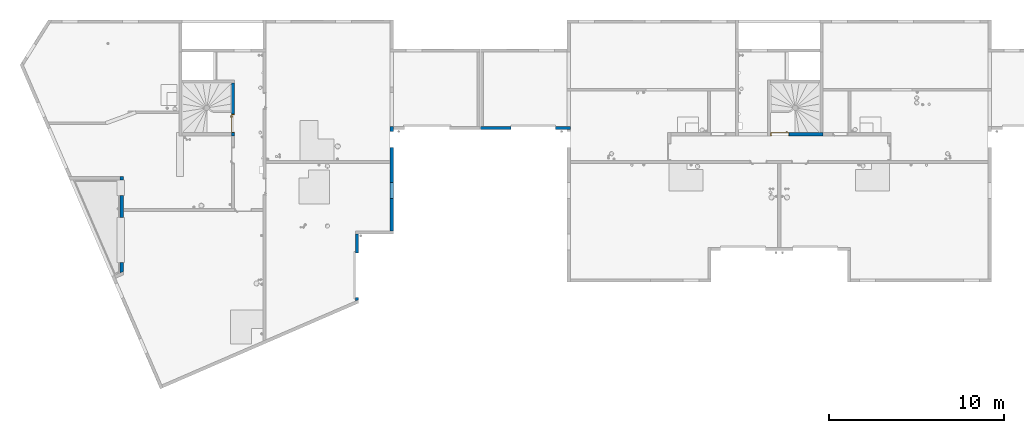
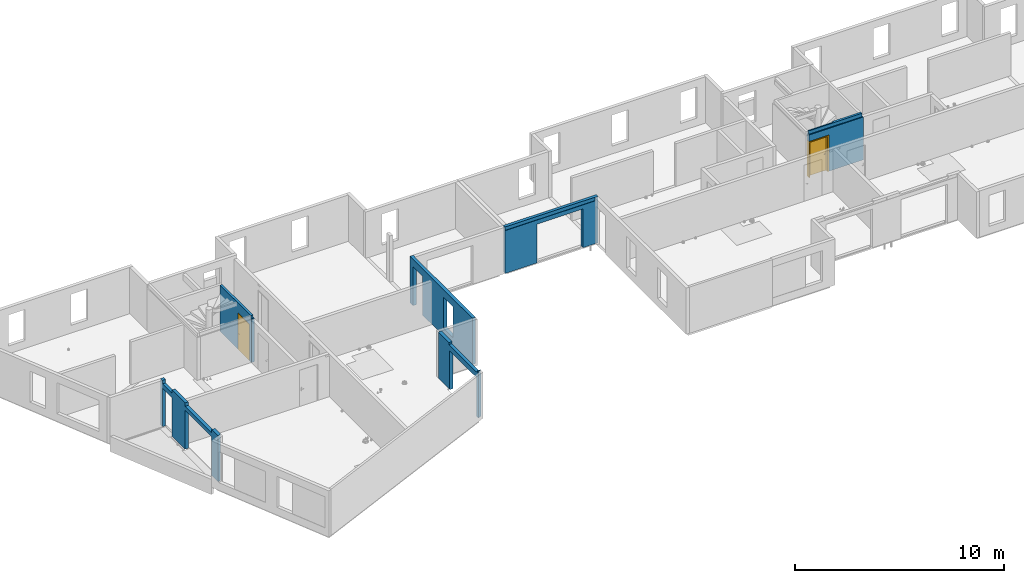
# One storey, part 21 of 30: 6 walls, 2 doors, 2 openings.
"""IFC2X3 building model written with IfcOpenShell, lengths in centimetres."""

from ifc_helpers import new_model, entity, si_unit, converted_unit, derived_unit, direction, frame, frame_2d, origin, place, context, subcontext, project, spatial, rectangle, extrude, faceted_brep, source, transform, mapped, material, material_list, layer, layer_set, type_object, type_shapes, element, fill, save


model = new_model("IFC2X3")

# Units and contexts
model_context = context("Model", 3, precision=0.001, world=origin(), true_north=direction((6.12303176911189e-17, 1.0)))
body_context = subcontext(model_context, "Body", "Model", "MODEL_VIEW")
ifc_project = project(units=[si_unit("LENGTHUNIT", "METRE", prefix="CENTI"), si_unit("AREAUNIT", "SQUARE_METRE"), si_unit("VOLUMEUNIT", "CUBIC_METRE"), converted_unit("PLANEANGLEUNIT", "DEGREE", entity("IfcRatioMeasure", 0.0174532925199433), si_unit("PLANEANGLEUNIT", "RADIAN"), dimensions=[0, 0, 0, 0, 0, 0, 0]), si_unit("MASSUNIT", "GRAM", prefix="KILO"), derived_unit("MASSDENSITYUNIT", [(si_unit("MASSUNIT", "GRAM", prefix="KILO"), 1), (si_unit("LENGTHUNIT", "METRE"), -3)]), si_unit("TIMEUNIT", "SECOND"), si_unit("FREQUENCYUNIT", "HERTZ"), si_unit("THERMODYNAMICTEMPERATUREUNIT", "DEGREE_CELSIUS"), derived_unit("THERMALTRANSMITTANCEUNIT", [(si_unit("MASSUNIT", "GRAM", prefix="KILO"), 1), (si_unit("THERMODYNAMICTEMPERATUREUNIT", "KELVIN"), -1), (si_unit("TIMEUNIT", "SECOND"), -3)]), derived_unit("VOLUMETRICFLOWRATEUNIT", [(si_unit("LENGTHUNIT", "METRE"), 3), (si_unit("TIMEUNIT", "SECOND"), -1)]), si_unit("ELECTRICCURRENTUNIT", "AMPERE"), si_unit("ELECTRICVOLTAGEUNIT", "VOLT"), si_unit("POWERUNIT", "WATT"), si_unit("FORCEUNIT", "NEWTON"), si_unit("ILLUMINANCEUNIT", "LUX"), si_unit("LUMINOUSFLUXUNIT", "LUMEN"), si_unit("LUMINOUSINTENSITYUNIT", "CANDELA"), derived_unit("USERDEFINED", [(si_unit("MASSUNIT", "GRAM", prefix="KILO"), -1), (si_unit("LENGTHUNIT", "METRE"), -2), (si_unit("TIMEUNIT", "SECOND"), 3), (si_unit("LUMINOUSFLUXUNIT", "LUMEN"), 1)]), derived_unit("LINEARVELOCITYUNIT", [(si_unit("LENGTHUNIT", "METRE"), 1), (si_unit("TIMEUNIT", "SECOND"), -1)]), si_unit("PRESSUREUNIT", "PASCAL"), derived_unit("USERDEFINED", [(si_unit("LENGTHUNIT", "METRE"), -2), (si_unit("MASSUNIT", "GRAM", prefix="KILO"), 1), (si_unit("TIMEUNIT", "SECOND"), -2)])], contexts=[model_context])

# Site, building, storey
site_placement = place(None, origin())
site = spatial("IfcSite", under=ifc_project, at=site_placement, Name="Default", CompositionType="ELEMENT")
building_placement = place(site_placement, origin())
building = spatial("IfcBuilding", under=site, at=building_placement, Name="CAGE 03", CompositionType="ELEMENT")
storey_placement = place(building_placement, frame((0.0, 0.0, 610.0)))
storey = spatial("IfcBuildingStorey", under=building, at=storey_placement, Name="R+2", CompositionType="ELEMENT", Elevation=610.0)

# Walls
ifc_material_1 = material(Name="Béton, C25/30")
ifc_layer = layer(ifc_material_1, 18.0)
ifc_layer_set = layer_set([ifc_layer], Name="Mur de base:Voile BA 18")
wall_type_1 = type_object("IfcWallType", Name="Mur de base:Voile BA 18", PredefinedType="STANDARD", material=ifc_layer_set)
wall_1_placement = place(storey_placement, frame((3327.86582014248, 3849.93428297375, 0.0), z_axis=(0.0, 0.0, 1.0), x_axis=(0.0, 1.0, 0.0)))
element("IfcWall", 1, at=wall_1_placement, inside=storey, type_object=wall_type_1, Name="Mur de base:Voile BA 18", ObjectType="Mur de base:Voile BA 18", context=body_context, shape_type="Brep", body=[
    faceted_brep([(7.78832528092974, -9.0, 0.0), (60.7263831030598, -9.0, 0.0), (60.7263831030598, -9.0, 226.0), (315.72638310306, -9.0, 226.0), (315.72638310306, -9.0, 0.0), (350.226383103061, -9.0, 0.0), (368.226383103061, -9.0, 0.0), (440.726383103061, -9.0, 0.0), (440.72638310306, -9.0, 226.0), (531.72638310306, -9.0, 226.0), (531.72638310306, -9.0, 0.0), (549.72638310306, -9.0, 0.0), (549.72638310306, -9.0, 250.0), (549.72638310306, -9.0, 270.0), (531.726383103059, -9.0, 270.0), (531.726383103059, -9.0, 250.0), (440.726383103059, -9.0, 250.0), (440.726383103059, -9.0, 270.0), (315.72638310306, -9.0, 270.0), (315.72638310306, -9.0, 250.0), (60.7263831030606, -9.0, 250.0), (60.7263831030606, -9.0, 270.0), (7.78832528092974, -9.0, 270.0), (7.78832528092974, -9.0, 250.0), (60.7263831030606, 9.0, 0.0), (0.0, 9.0, 0.0), (0.0, 9.0, 250.0), (0.0, 9.0, 269.609958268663), (0.0, 9.0, 270.0), (60.7263831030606, 9.0, 270.0), (60.7263831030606, 9.0, 269.609958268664), (60.7263831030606, 9.0, 265.0), (60.7263831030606, 9.0, 250.0), (315.72638310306, 9.0, 250.0), (315.72638310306, 9.0, 265.0), (315.72638310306, 9.0, 269.609958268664), (315.72638310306, 9.0, 270.0), (440.726383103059, 9.0, 270.0), (440.726383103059, 9.0, 269.609958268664), (440.726383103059, 9.0, 265.0), (440.726383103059, 9.0, 250.0), (531.726383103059, 9.0, 250.0), (531.726383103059, 9.0, 270.0), (549.72638310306, 9.0, 270.0), (549.72638310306, 9.0, 250.0), (549.72638310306, 9.0, 0.0), (531.726383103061, 9.0, 0.0), (531.72638310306, 9.0, 226.0), (440.726383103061, 9.0, 226.0), (440.72638310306, 9.0, 0.0), (315.726383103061, 9.0, 0.0), (315.72638310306, 9.0, 226.0), (60.7263831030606, 9.0, 226.0)], [[[0, 1, 2, 3, 4, 5, 6, 7, 8, 9, 10, 11, 12, 13, 14, 15, 16, 17, 18, 19, 20, 21, 22, 23]], [[24, 25, 26, 27, 28, 29, 30, 31, 32, 33, 34, 35, 36, 37, 38, 39, 40, 41, 42, 43, 44, 45, 46, 47, 48, 49, 50, 51, 52]], [[0, 25, 24, 1]], [[13, 43, 42, 14]], [[22, 28, 27, 26, 25, 0, 23]], [[11, 45, 44, 43, 13, 12]], [[52, 2, 1, 24]], [[2, 52, 51, 3]], [[3, 51, 50, 4]], [[48, 8, 7, 49]], [[8, 48, 47, 9]], [[9, 47, 46, 10]], [[18, 36, 35, 34, 33, 19]], [[20, 32, 31, 30, 29, 21]], [[41, 15, 14, 42]], [[37, 17, 16, 40, 39, 38]], [[40, 16, 15, 41]], [[32, 20, 19, 33]], [[36, 18, 17, 37]], [[28, 22, 21, 29]], [[4, 50, 49, 7, 6, 5]], [[45, 11, 10, 46]]]),
])
wall_2_placement = place(storey_placement, frame((4671.36582014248, 3689.23240252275, 0.0), z_axis=(0.0, 0.0, 1.0), x_axis=(0.0, 1.0, 0.0)))
element("IfcWall", 2, at=wall_2_placement, inside=storey, type_object=wall_type_1, Name="Mur de base:Voile BA 18", ObjectType="Mur de base:Voile BA 18", context=body_context, shape_type="Brep", body=[
    faceted_brep([(10.9282635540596, -9.0, 269.589956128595), (10.9282635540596, -9.0, 270.0), (7.80682640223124, -9.0, 270.0), (7.84591548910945, -9.0, 269.589956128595), (18.9282635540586, 9.0, 0.0), (10.9282635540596, 9.0, 0.0), (0.0, 9.0, 0.0), (0.0, 9.0, 250.0), (0.0, 9.0, 270.0), (10.9282635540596, 9.0, 270.0), (10.9282635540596, 9.0, 258.0), (281.928263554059, 9.0, 258.0), (281.928263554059, 9.0, 270.0), (382.928263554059, 9.0, 270.0), (382.928263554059, 9.0, 250.0), (382.928263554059, 9.0, 0.0), (281.928263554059, 9.0, 0.0), (273.92826355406, 9.0, 0.0), (273.92826355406, 9.0, 226.0), (18.9282635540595, 9.0, 226.0), (7.78832528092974, -9.0, 0.0), (18.9282635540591, -9.0, 0.0), (10.9282635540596, -9.0, 0.0), (7.80682640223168, -9.0, 0.0), (382.928263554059, -9.0, 270.0), (281.928263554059, -7.0, 270.0), (281.928263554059, -9.0, 270.0), (7.78832528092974, -9.0, 250.0), (6.92295580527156, -7.0, 250.0), (6.92295580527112, -7.0, 270.0), (382.928263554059, -9.0, 0.0), (18.9282635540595, -9.0, 226.0), (273.92826355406, -9.0, 226.0), (273.92826355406, -9.0, 0.0), (10.9282635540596, -7.0, 270.0), (10.9282635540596, -7.0, 269.609958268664), (10.9282635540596, -7.0, 258.0), (281.928263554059, -7.0, 258.0), (281.928263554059, -7.0, 269.609958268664), (281.928263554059, -9.0, 269.589956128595), (377.928263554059, -9.0, 250.0), (377.928263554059, -7.0, 250.0), (381.928263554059, -7.0, 269.609958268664), (381.928263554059, -7.0, 250.0), (381.928263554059, -9.0, 250.0), (381.928263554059, -9.0, 269.589956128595), (6.94134911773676, -7.0, 270.0), (6.97853141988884, -7.0, 269.609958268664), (378.928263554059, -7.0, 250.0), (377.928263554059, -7.0, 251.466307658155), (378.928263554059, -7.0, 251.0), (378.928263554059, -9.0, 251.0), (378.928263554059, -9.0, 250.0), (377.928263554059, -9.0, 251.466307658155), (281.928263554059, -9.0, 0.0)], [[[0, 1, 2, 3]], [[4, 5, 6, 7, 8, 9, 10, 11, 12, 13, 14, 15, 16, 17, 18, 19]], [[20, 6, 5, 4, 21, 22, 23]], [[24, 13, 12, 25, 26]], [[6, 20, 27, 28, 29, 8, 7]], [[24, 30, 15, 14, 13]], [[19, 31, 21, 4]], [[31, 19, 18, 32]], [[32, 18, 17, 33]], [[10, 9, 34, 1, 0, 35, 36]], [[12, 11, 37, 38, 39, 26, 25]], [[11, 10, 36, 37]], [[40, 41, 28, 27]], [[42, 43, 44, 45]], [[46, 47, 3, 2]], [[48, 43, 42, 38, 37, 36, 35, 47, 46, 29, 28, 41, 49, 50]], [[47, 35, 0, 3]], [[48, 50, 51, 52]], [[49, 41, 40, 53]], [[50, 49, 53, 51]], [[38, 42, 45, 39]], [[43, 48, 52, 44]], [[9, 8, 29, 46, 2, 1, 34]], [[15, 30, 54, 33, 17, 16]], [[30, 24, 26, 39, 45, 44, 52, 51, 53, 40, 27, 20, 23, 22, 21, 31, 32, 33, 54]]]),
])
wall_3_placement = place(storey_placement, frame((4869.36582014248, 4090.16066607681, 0.0), z_axis=(0.0, 0.0, 1.0), x_axis=(0.0, 1.0, 0.0)))
element("IfcWall", 3, at=wall_3_placement, inside=storey, type_object=wall_type_1, Name="Mur de base:Voile BA 18", ObjectType="Mur de base:Voile BA 18", context=body_context, shape_type="Brep", body=[
    faceted_brep([(0.0, -9.0, 270.0), (0.0, -9.0, 0.0), (475.499999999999, -9.0, 0.0), (475.499999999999, -9.0, 226.0), (566.5, -9.0, 226.0), (566.499999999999, -9.0, 0.0), (578.499999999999, -9.0, 0.0), (596.5, -9.0, 0.0), (596.5, -9.0, 220.0), (596.5, -9.0, 270.0), (580.500000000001, -9.0, 270.0), (580.500000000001, -9.0, 250.0), (388.500000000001, -9.0, 250.0), (388.500000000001, -9.0, 251.466307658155), (387.500000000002, -9.0, 251.0), (387.5, -9.0, 250.0), (384.5, -9.0, 250.0), (384.5, -9.0, 270.0), (184.5, -9.0, 45.0), (184.5, -9.0, 226.0), (275.500000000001, -9.0, 226.0), (275.5, -9.0, 45.0), (184.5, 9.0, 226.0), (184.5, 9.0, 45.0), (275.500000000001, 9.0, 45.0), (275.5, 9.0, 226.0), (0.0, 9.0, 270.0), (596.5, 9.0, 270.0), (596.5, 9.0, 220.0), (596.5, 9.0, 0.0), (566.5, 9.0, 0.0), (566.499999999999, 9.0, 226.0), (475.5, 9.0, 226.0), (475.499999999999, 9.0, 0.0), (402.499999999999, 9.0, 0.0), (384.499999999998, 9.0, 0.0), (0.0, 9.0, 0.0), (0.0, 9.0, 250.0), (384.5, -7.0, 270.0), (402.5, -7.0, 270.0), (580.500000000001, -7.0, 270.0), (580.500000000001, -7.0, 250.0), (387.500000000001, -7.0, 251.0), (387.500000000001, -7.0, 250.0), (388.500000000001, -7.0, 250.0), (388.500000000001, -7.0, 251.466307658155), (384.5, -7.0, 250.0)], [[[0, 1, 2, 3, 4, 5, 6, 7, 8, 9, 10, 11, 12, 13, 14, 15, 16, 17], [18, 19, 20, 21]], [[22, 23, 24, 25], [26, 27, 28, 29, 30, 31, 32, 33, 34, 35, 36, 37]], [[1, 36, 35, 34, 33, 2]], [[27, 26, 0, 17, 38, 39, 40, 10, 9]], [[1, 0, 26, 37, 36]], [[9, 8, 7, 29, 28, 27]], [[18, 23, 22, 19]], [[19, 22, 25, 20]], [[24, 21, 20, 25]], [[23, 18, 21, 24]], [[32, 3, 2, 33]], [[3, 32, 31, 4]], [[4, 31, 30, 5]], [[40, 41, 11, 10]], [[42, 43, 15, 14]], [[44, 45, 13, 12]], [[45, 42, 14, 13]], [[16, 46, 38, 17]], [[41, 40, 39, 38, 46, 43, 42, 45, 44]], [[41, 44, 12, 11]], [[43, 46, 16, 15]], [[29, 7, 6, 5, 30]]], outer=[[True, False], [False, True], [True], [True], [True], [True], [True], [True], [True], [True], [True], [True], [True], [True], [True], [True], [True], [True], [True], [True], [True], [True]]),
])
wall_4_placement = place(storey_placement, frame((5375.36582014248, 4677.66066607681, 0.0)))
element("IfcWall", 4, at=wall_4_placement, inside=storey, type_object=wall_type_1, Name="Mur de base:Voile BA 18", ObjectType="Mur de base:Voile BA 18", context=body_context, shape_type="Brep", body=[
    faceted_brep([(513.0, -9.0, 0.0), (513.0, -9.0, 270.0), (497.0, -9.0, 270.0), (497.0, -9.0, 250.0), (4.0, -9.0, 250.0), (4.0, -9.0, 251.466307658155), (3.0, -9.0, 251.0), (3.0, -9.0, 250.0), (0.0, -9.0, 250.0), (0.0, -9.0, 0.0), (175.0, -9.0, 0.0), (175.0, -9.0, 226.0), (430.0, -9.0, 226.0), (430.0, -9.0, 0.0), (495.0, -9.0, 0.0), (0.0, 9.0, 270.0), (18.0, 9.0, 270.0), (495.0, 9.0, 270.0), (513.0, 9.0, 270.0), (513.0, 9.0, 0.0), (438.0, 9.0, 0.0), (430.0, 9.0, 0.0), (430.0, 9.0, 226.0), (175.0, 9.0, 226.0), (175.0, 9.0, 0.0), (167.0, 9.0, 0.0), (18.0, 9.0, 0.0), (0.0, 9.0, 0.0), (175.0, -7.0, 0.0), (0.0, -7.0, 270.0), (18.0, -7.0, 270.0), (497.0, -7.0, 270.0), (430.0, -7.0, 0.0), (0.0, -7.0, 250.0), (497.0, -7.0, 250.0), (3.0, -7.0, 250.0), (3.0, -7.0, 251.0), (4.0, -7.0, 251.466307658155), (4.0, -7.0, 250.0)], [[[0, 1, 2, 3, 4, 5, 6, 7, 8, 9, 10, 11, 12, 13, 14]], [[15, 16, 17, 18, 19, 20, 21, 22, 23, 24, 25, 26, 27]], [[10, 9, 27, 26, 25, 24, 28]], [[18, 17, 16, 15, 29, 30, 31, 2, 1]], [[1, 0, 19, 18]], [[12, 22, 21, 32, 13]], [[22, 12, 11, 23]], [[23, 11, 10, 28, 24]], [[15, 27, 9, 8, 33, 29]], [[34, 31, 30, 29, 33, 35, 36, 37, 38]], [[31, 34, 3, 2]], [[34, 38, 4, 3]], [[36, 35, 7, 6]], [[38, 37, 5, 4]], [[37, 36, 6, 5]], [[35, 33, 8, 7]], [[19, 0, 14, 13, 32, 21, 20]]]),
])

# Wall, opening, door
wall_type_2 = type_object("IfcWallType", Name="Mur de base:premur 18", PredefinedType="NOTDEFINED")
wall_5_placement = place(storey_placement, frame((3963.36582014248, 4932.66066607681, 0.0), z_axis=(0.0, 0.0, 1.0), x_axis=(0.0, -1.0, 0.0)))
wall_5 = element("IfcWall", 5, at=wall_5_placement, inside=storey, type_object=wall_type_2, Name="Mur de base:premur 18", ObjectType="Mur de base:premur 18", context=body_context, shape_type="Brep", body=[
    faceted_brep([(0.0, -9.0, 270.0), (0.0, -9.0, 0.0), (175.0, -9.0, 0.0), (175.0, -9.0, 210.0), (282.0, -9.0, 210.0), (282.0, -9.0, 0.0), (294.5, -9.0, 0.0), (300.0, -9.0, 0.0), (300.0, -9.0, 237.5), (300.0, -9.0, 247.5), (300.0, -9.0, 250.0), (294.5, -9.0, 250.0), (294.5, -9.0, 270.0), (287.5, -9.0, 270.0), (282.0, -9.0, 270.0), (175.0, -9.0, 270.0), (300.0, 9.0, 0.0), (282.0, 9.0, 0.0), (282.0, 9.0, 210.0), (175.0, 9.0, 210.0), (175.0, 9.0, 0.0), (0.0, 9.0, 0.0), (0.0, 9.0, 250.0), (300.0, 9.0, 250.0), (300.0, 9.0, 247.5), (300.0, 9.0, 237.5), (0.0, 3.50000000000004, 0.0), (294.5, 3.5000000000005, 270.0), (0.0, 3.50000000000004, 270.0), (0.0, 3.50000000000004, 250.0), (294.5, 3.5000000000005, 250.0)], [[[0, 1, 2, 3, 4, 5, 6, 7, 8, 9, 10, 11, 12, 13, 14, 15]], [[16, 17, 18, 19, 20, 21, 22, 23, 24, 25]], [[1, 26, 21, 20, 2]], [[0, 15, 14, 13, 12, 27, 28]], [[1, 0, 28, 29, 22, 21, 26]], [[7, 16, 25, 24, 23, 10, 9, 8]], [[5, 4, 18, 17]], [[4, 3, 19, 18]], [[3, 2, 20, 19]], [[29, 30, 11, 10, 23, 22]], [[30, 27, 12, 11]], [[27, 30, 29, 28]], [[16, 7, 6, 5, 17]]]),
])
opening_1_placement = place(wall_5_placement, frame((282.0, 9.0, 0.0)))
opening_1 = element("IfcOpeningElement", 6, at=opening_1_placement, cuts=wall_5, Name="Int. Simple:HB103:1", ObjectType="Opening", context=body_context, shape_type="SweptSolid", body=[
    extrude(rectangle(XDim=210.000000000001, YDim=107.0, at=frame_2d((105.000000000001, 53.5000000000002), x_axis=(1.0, 0.0))), frame((0.0, 0.0, 0.0), z_axis=(0.0, -1.0, 0.0), x_axis=(0.0, 0.0, 1.0)), (0.0, 0.0, 1.0), 18.0),
])
ifc_material_2 = material(Name="Finition Peinture - Blanc satiné")
ifc_material_3 = material(Name="Bois - Panneau de porte")
ifc_material_4 = material(Name="Bois - Cadre de porte")
ifc_material_list_1 = material_list([ifc_material_2, ifc_material_3, ifc_material_4])
ifc_material_list_2 = material_list([ifc_material_2, ifc_material_3, ifc_material_4])
door_style = type_object("IfcDoorStyle", Name="HB103", ConstructionType="NOTDEFINED", OperationType="SINGLE_SWING_LEFT", ParameterTakesPrecedence=False, Sizeable=False, material=ifc_material_list_2)
shared_shape = source(origin(), body_context, "Body", "Brep", [
    faceted_brep([(10.5352761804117, -0.500000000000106, 86.6003983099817), (11.5000000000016, -0.500000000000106, 87.0), (11.5000000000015, -0.500000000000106, 108.0), (10.5352761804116, -0.500000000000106, 108.399601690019), (9.50000000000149, -0.500000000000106, 108.535898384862), (8.46472381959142, -0.500000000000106, 108.399601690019), (7.50000000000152, -0.500000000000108, 108.0), (7.50000000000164, -0.500000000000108, 87.0), (8.46472381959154, -0.500000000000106, 86.6003983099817), (9.5000000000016, -0.500000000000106, 86.464101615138), (10.5352761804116, 0.0, 108.399601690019), (11.5000000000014, 0.0, 108.0), (11.5000000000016, 0.0, 87.0), (10.5352761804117, 0.0, 86.6003983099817), (9.5000000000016, 0.0, 86.464101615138), (8.46472381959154, 0.0, 86.6003983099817), (7.50000000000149, 0.0, 87.0), (7.50000000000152, 0.0, 108.0), (8.46472381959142, 0.0, 108.399601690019), (9.50000000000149, 0.0, 108.535898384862)], [[[0, 1, 2, 3, 4, 5, 6, 7, 8, 9]], [[10, 11, 12, 13, 14, 15, 16, 17, 18, 19]], [[16, 15, 8, 7]], [[8, 15, 14, 9]], [[14, 13, 0, 9]], [[13, 12, 1, 0]], [[2, 1, 12, 11]], [[11, 10, 3, 2]], [[3, 10, 19, 4]], [[19, 18, 5, 4]], [[18, 17, 6, 5]], [[7, 6, 17, 16]]]),
    faceted_brep([(10.5352761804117, 3.0, 86.6003983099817), (11.5000000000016, 3.0, 87.0), (11.5000000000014, 3.0, 108.0), (10.5352761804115, 3.0, 108.399601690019), (9.50000000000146, 3.0, 108.535898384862), (8.4647238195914, 3.0, 108.399601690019), (7.50000000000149, 3.0, 108.0), (7.50000000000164, 3.0, 87.0), (8.46472381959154, 3.0, 86.6003983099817), (9.50000000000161, 3.0, 86.464101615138), (10.5352761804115, 3.49999999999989, 108.399601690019), (11.5000000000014, 3.49999999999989, 108.0), (11.5000000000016, 3.49999999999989, 87.0), (10.5352761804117, 3.49999999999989, 86.6003983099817), (9.50000000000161, 3.49999999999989, 86.464101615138), (8.46472381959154, 3.49999999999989, 86.6003983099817), (7.50000000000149, 3.49999999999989, 87.0), (7.50000000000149, 3.49999999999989, 108.0), (8.4647238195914, 3.49999999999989, 108.399601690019), (9.50000000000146, 3.49999999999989, 108.535898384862)], [[[0, 1, 2, 3, 4, 5, 6, 7, 8, 9]], [[10, 11, 12, 13, 14, 15, 16, 17, 18, 19]], [[11, 10, 3, 2]], [[3, 10, 19, 4]], [[19, 18, 5, 4]], [[18, 17, 6, 5]], [[7, 6, 17, 16]], [[16, 15, 8, 7]], [[8, 15, 14, 9]], [[14, 13, 0, 9]], [[13, 12, 1, 0]], [[2, 1, 12, 11]]]),
    faceted_brep([(9.29747013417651, -0.500000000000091, 100.778044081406), (9.70252986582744, -0.500000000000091, 100.778044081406), (10.1000000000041, -0.500000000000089, 100.699999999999), (10.1000000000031, -0.500000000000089, 99.3000000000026), (9.7025298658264, -0.500000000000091, 99.2219559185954), (9.29747013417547, -0.500000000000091, 99.2219559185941), (8.89999999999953, -0.500000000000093, 99.2999999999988), (8.89999999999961, -0.500000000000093, 100.7), (8.8999999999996, -3.26509507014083, 100.7), (9.29747013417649, -3.1004575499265, 100.778044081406), (10.9023585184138, -4.70534593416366, 100.778044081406), (11.0701397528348, -4.30028620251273, 100.778044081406), (9.70252986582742, -2.93267631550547, 100.778044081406), (10.1000000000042, -2.76803879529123, 100.7), (10.1000000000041, -2.76803879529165, 99.3000000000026), (9.7025298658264, -2.93267631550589, 99.2219559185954), (11.0701397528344, -4.30028620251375, 99.2219559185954), (10.9023585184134, -4.70534593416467, 99.2219559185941), (9.29747013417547, -3.10045754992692, 99.2219559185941), (8.89999999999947, -3.26509507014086, 99.2999999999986), (10.7377209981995, -5.10281606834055, 100.7), (11.2347772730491, -3.90281606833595, 100.7), (11.2347772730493, -3.90281606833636, 99.3000000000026), (10.7377209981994, -5.10281606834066, 99.2999999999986), (19.5018640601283, -5.10281606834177, 99.2999999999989), (19.5018640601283, -4.70534593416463, 99.2219559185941), (19.5018640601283, -4.30028620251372, 99.2219559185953), (19.5018640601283, -3.90281606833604, 99.3000000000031), (19.5018640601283, -3.90281606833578, 100.7), (19.5018640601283, -4.30028620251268, 100.778044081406), (19.5018640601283, -4.7053459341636, 100.778044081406), (19.5018640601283, -5.10281606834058, 100.699999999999), (14.7307697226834, -5.10281606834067, 100.7), (15.2860019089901, -4.50281606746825, 100.78786867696), (15.3683206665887, -3.90281606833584, 100.7), (15.3683206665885, -3.90281606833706, 99.3000000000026), (15.2860018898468, -4.50281607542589, 99.2121313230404), (14.7307703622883, -5.10281606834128, 99.2999999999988)], [[[0, 1, 2, 3, 4, 5, 6, 7]], [[8, 9, 0, 7]], [[9, 10, 11, 12, 1, 0]], [[12, 13, 2, 1]], [[3, 2, 13, 14]], [[14, 15, 4, 3]], [[15, 16, 17, 18, 5, 4]], [[18, 19, 6, 5]], [[7, 6, 19, 8]], [[20, 10, 9, 8]], [[11, 21, 13, 12]], [[14, 13, 21, 22]], [[22, 16, 15, 14]], [[17, 23, 19, 18]], [[8, 19, 23, 20]], [[24, 25, 26, 27, 28, 29, 30, 31]], [[32, 30, 33]], [[31, 30, 32]], [[10, 20, 32]], [[33, 34, 11]], [[21, 11, 34]], [[34, 29, 28]], [[30, 29, 33]], [[29, 34, 33]], [[10, 32, 33]], [[10, 33, 11]], [[22, 21, 34, 28, 27, 35]], [[35, 26, 36]], [[37, 36, 25]], [[22, 35, 16]], [[35, 27, 26]], [[24, 37, 25]], [[23, 17, 37]], [[37, 17, 36]], [[17, 16, 36]], [[16, 35, 36]], [[25, 36, 26]], [[20, 23, 37, 24, 31, 32]]]),
    faceted_brep([(9.29747013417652, 3.49999999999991, 100.778044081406), (8.89999999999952, 3.4999999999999, 100.7), (8.89999999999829, 3.4999999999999, 99.299999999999), (9.29747013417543, 3.49999999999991, 99.2219559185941), (9.70252986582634, 3.49999999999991, 99.2219559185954), (10.1000000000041, 3.49999999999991, 99.3000000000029), (10.1000000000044, 3.49999999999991, 100.7), (9.70252986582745, 3.49999999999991, 100.778044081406), (10.1000000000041, 5.74852045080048, 99.3000000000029), (10.1000000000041, 5.74852045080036, 100.7), (9.70252986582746, 5.91315797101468, 100.778044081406), (11.0838906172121, 7.29451872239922, 100.778044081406), (10.9161093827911, 7.69957845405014, 100.778044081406), (9.29747013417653, 6.08093920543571, 100.778044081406), (8.89999999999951, 6.2455767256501, 100.7), (8.8999999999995, 6.24557672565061, 99.299999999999), (9.29747013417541, 6.08093920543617, 99.2219559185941), (10.9161093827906, 7.69957845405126, 99.2219559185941), (11.0838906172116, 7.29451872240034, 99.2219559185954), (9.70252986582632, 5.91315797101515, 99.2219559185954), (11.2485281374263, 6.89704858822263, 99.3000000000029), (11.2485281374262, 6.89704858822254, 100.7), (10.7514718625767, 8.09704858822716, 100.7), (10.7514718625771, 8.09704858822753, 99.299999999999), (19.5045783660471, 6.8970485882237, 99.3000000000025), (19.5045783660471, 7.29451872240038, 99.2219559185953), (19.5045783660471, 7.6995784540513, 99.2219559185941), (19.5045783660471, 8.09704858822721, 99.2999999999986), (19.5045783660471, 8.0970485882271, 100.7), (19.5045783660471, 7.6995784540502, 100.778044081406), (19.5045783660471, 7.29451872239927, 100.778044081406), (19.5045783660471, 6.89704858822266, 100.7), (15.3765532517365, 6.89704858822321, 99.3000000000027), (15.3765532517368, 6.89704858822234, 100.7), (15.2942344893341, 7.4970485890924, 100.78786867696), (14.7445205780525, 8.09704858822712, 100.7), (14.7445205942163, 8.09704858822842, 99.299999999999), (15.2942345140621, 7.49704858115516, 99.2121313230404)], [[[0, 1, 2, 3, 4, 5, 6, 7]], [[6, 5, 8, 9]], [[9, 10, 7, 6]], [[10, 11, 12, 13, 0, 7]], [[13, 14, 1, 0]], [[2, 1, 14, 15]], [[15, 16, 3, 2]], [[16, 17, 18, 19, 4, 3]], [[19, 8, 5, 4]], [[9, 8, 20, 21]], [[21, 11, 10, 9]], [[12, 22, 14, 13]], [[15, 14, 22, 23]], [[23, 17, 16, 15]], [[18, 20, 8, 19]], [[24, 25, 26, 27, 28, 29, 30, 31]], [[21, 20, 32, 24, 31, 33]], [[33, 30, 34]], [[35, 34, 29]], [[21, 33, 11]], [[33, 31, 30]], [[28, 35, 29]], [[22, 12, 35]], [[35, 12, 34]], [[12, 11, 34]], [[11, 33, 34]], [[29, 34, 30]], [[22, 35, 28, 27, 36, 23]], [[36, 26, 37]], [[27, 26, 36]], [[17, 23, 36]], [[37, 32, 18]], [[20, 18, 32]], [[32, 25, 24]], [[26, 25, 37]], [[25, 32, 37]], [[17, 36, 37]], [[17, 37, 18]]]),
    faceted_brep([(3.5000000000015, 3.0, 206.5), (103.500000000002, 3.0, 206.5), (103.500000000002, 3.0, 0.0), (3.5000000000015, 3.0, 0.0), (3.5000000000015, 0.0, 206.5), (3.5000000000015, 0.0, 0.0), (103.500000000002, 0.0, 0.0), (103.500000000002, 0.0, 206.5)], [[[0, 1, 2, 3]], [[4, 5, 6, 7]], [[1, 0, 4, 7]], [[2, 1, 7, 6]], [[3, 2, 6, 5]], [[0, 3, 5, 4]]]),
    faceted_brep([(0.0, 0.0, 0.0), (0.0, 18.0, 0.0), (5.0, 18.0, 0.0), (5.0, 3.0, 0.0), (3.50000000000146, 3.0, 0.0), (3.50000000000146, 0.0, 0.0), (0.0, 0.0, 210.0), (0.0, 18.0, 210.0), (107.0, 18.0, 210.0), (107.0, 18.0, 0.0), (102.0, 18.0, 0.0), (102.0, 18.0, 205.0), (5.0, 18.0, 205.0), (5.0, 3.0, 205.0), (102.0, 3.0, 205.0), (102.0, 3.0, 0.0), (103.499999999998, 3.0, 0.0), (103.499999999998, 3.0, 206.5), (3.50000000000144, 3.0, 206.5), (3.50000000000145, 0.0, 206.5), (103.499999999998, 0.0, 206.5), (103.499999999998, 0.0, 0.0), (107.0, 0.0, 0.0), (107.0, 0.0, 210.0)], [[[0, 1, 2, 3, 4, 5]], [[1, 0, 6, 7]], [[2, 1, 7, 8, 9, 10, 11, 12]], [[3, 2, 12, 13]], [[4, 3, 13, 14, 15, 16, 17, 18]], [[5, 4, 18, 19]], [[0, 5, 19, 20, 21, 22, 23, 6]], [[8, 23, 22, 9]], [[22, 21, 16, 15, 10, 9]], [[14, 11, 10, 15]], [[20, 17, 16, 21]], [[7, 6, 23, 8]], [[13, 12, 11, 14]], [[19, 18, 17, 20]]]),
    faceted_brep([(1.49999999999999, 18.0, 0.0), (-1.5, 18.0, 0.0), (-1.5, 18.5000000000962, 0.0), (1.49999999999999, 18.5000000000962, 0.0), (1.49999999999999, 18.0, 208.500000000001), (105.5, 18.0, 208.500000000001), (105.5, 18.0, 0.0), (108.5, 18.0, 0.0), (108.5, 18.0, 211.500000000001), (-1.50000000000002, 18.0, 211.500000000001), (-1.5, 18.5000000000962, 211.500000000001), (108.5, 18.5000000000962, 211.500000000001), (108.5, 18.5000000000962, 0.0), (105.5, 18.5000000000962, 0.0), (105.5, 18.5000000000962, 208.500000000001), (1.49999999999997, 18.5000000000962, 208.500000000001)], [[[0, 1, 2, 3]], [[1, 0, 4, 5, 6, 7, 8, 9]], [[2, 1, 9, 10]], [[3, 2, 10, 11, 12, 13, 14, 15]], [[0, 3, 15, 4]], [[6, 13, 12, 7]], [[5, 14, 13, 6]], [[11, 8, 7, 12]], [[10, 9, 8, 11]], [[4, 15, 14, 5]]]),
    faceted_brep([(-1.5, -0.5, 0.0), (1.49999999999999, -0.5, 0.0), (1.49999999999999, -0.5, 208.500000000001), (105.5, -0.5, 208.500000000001), (105.5, -0.5, 0.0), (108.5, -0.5, 0.0), (108.5, -0.5, 211.500000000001), (-1.50000000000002, -0.5, 211.500000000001), (-1.5, 0.0, 0.0), (-1.5, 0.0, 211.500000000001), (1.49999999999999, 0.0, 0.0), (108.5, 0.0, 211.500000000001), (108.5, 0.0, 0.0), (105.5, 0.0, 0.0), (105.5, 0.0, 208.500000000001), (1.49999999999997, 0.0, 208.500000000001)], [[[0, 1, 2, 3, 4, 5, 6, 7]], [[8, 0, 7, 9]], [[10, 8, 9, 11, 12, 13, 14, 15]], [[1, 10, 15, 2]], [[3, 14, 13, 4]], [[11, 6, 5, 12]], [[9, 7, 6, 11]], [[2, 15, 14, 3]], [[4, 13, 12, 5]], [[1, 0, 8, 10]]]),
])
type_shapes(door_style, [shared_shape])
door_1_placement = place(opening_1_placement, frame((-107.0, -18.0, 0.0)))
door_1 = element("IfcDoor", 7, at=door_1_placement, inside=storey, type_object=door_style, material=ifc_material_list_1, Name="Int. Simple:HB103", ObjectType="HB103", OverallHeight=210.000000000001, OverallWidth=107.0, context=body_context, shape_type="MappedRepresentation", body=[
    mapped(shared_shape, transform((0.0, 0.0, 0.0), scale=1.0)),
])
fill(opening_1, door_1)

wall_6_placement = place(storey_placement, frame((7031.36582014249, 4641.6606660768, 0.0)))
wall_6 = element("IfcWall", 8, at=wall_6_placement, inside=storey, type_object=wall_type_2, Name="Mur de base:premur 18", ObjectType="Mur de base:premur 18", context=body_context, shape_type="Brep", body=[
    faceted_brep([(107.0, -9.0, 0.0), (300.0, -9.0, 0.0), (300.0, -9.0, 250.0), (0.0, -9.0, 250.0), (0.0, -9.0, 210.0), (107.0, -9.0, 210.0), (300.0, 9.0, 0.0), (294.499999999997, 9.0, 0.0), (282.0, 9.0, 0.0), (141.0, 9.0, 0.0), (107.0, 9.0, 0.0), (107.0, 9.0, 210.0), (0.0, 9.0, 210.0), (0.0, 9.0, 250.0), (141.0, 9.0, 250.0), (141.0, 9.0, 270.0), (282.0, 9.0, 270.0), (294.499999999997, 9.0, 270.0), (294.499999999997, 9.0, 250.0), (300.0, 9.0, 250.0), (0.0, -3.50000000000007, 270.0), (294.499999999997, -3.50000000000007, 270.0), (141.0, 3.49999999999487, 270.0), (0.0, 3.50000000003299, 270.0), (0.0, -3.50000000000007, 250.0), (0.0, 3.50000000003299, 250.0), (294.499999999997, -3.50000000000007, 250.0), (141.0, 3.49999999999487, 250.0)], [[[0, 1, 2, 3, 4, 5]], [[6, 7, 8, 9, 10, 11, 12, 13, 14, 15, 16, 17, 18, 19]], [[6, 1, 0, 10, 9, 8, 7]], [[20, 21, 17, 16, 15, 22, 23]], [[12, 4, 3, 24, 20, 23, 25, 13]], [[1, 6, 19, 2]], [[11, 5, 4, 12]], [[5, 11, 10, 0]], [[26, 24, 3, 2, 19, 18]], [[24, 26, 21, 20]], [[27, 14, 13, 25]], [[27, 22, 15, 14]], [[22, 27, 25, 23]], [[21, 26, 18, 17]]]),
])
opening_2_placement = place(wall_6_placement, frame((0.0, -9.0, 0.0)))
opening_2 = element("IfcOpeningElement", 9, at=opening_2_placement, cuts=wall_6, Name="Int. Simple:HB103:1", ObjectType="Opening", context=body_context, shape_type="SweptSolid", body=[
    extrude(rectangle(XDim=210.000000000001, YDim=107.0, at=frame_2d((105.000000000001, 53.4999999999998), x_axis=(1.0, 0.0))), frame((0.0, 0.0, 0.0), z_axis=(0.0, 1.0, 0.0), x_axis=(0.0, 0.0, 1.0)), (0.0, 0.0, 1.0), 18.0),
])
ifc_material_list_3 = material_list([ifc_material_2, ifc_material_3, ifc_material_4])
door_2_placement = place(opening_2_placement, frame((107.0, 18.0, 0.0), z_axis=(0.0, 0.0, 1.0), x_axis=(-1.0, 0.0, 0.0)))
door_2 = element("IfcDoor", 10, at=door_2_placement, inside=storey, type_object=door_style, material=ifc_material_list_3, Name="Int. Simple:HB103", ObjectType="HB103", OverallHeight=210.000000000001, OverallWidth=107.0, context=body_context, shape_type="MappedRepresentation", body=[
    mapped(shared_shape, transform((0.0, 0.0, 0.0), scale=1.0)),
])
fill(opening_2, door_2)

save(model, "model.ifc")
